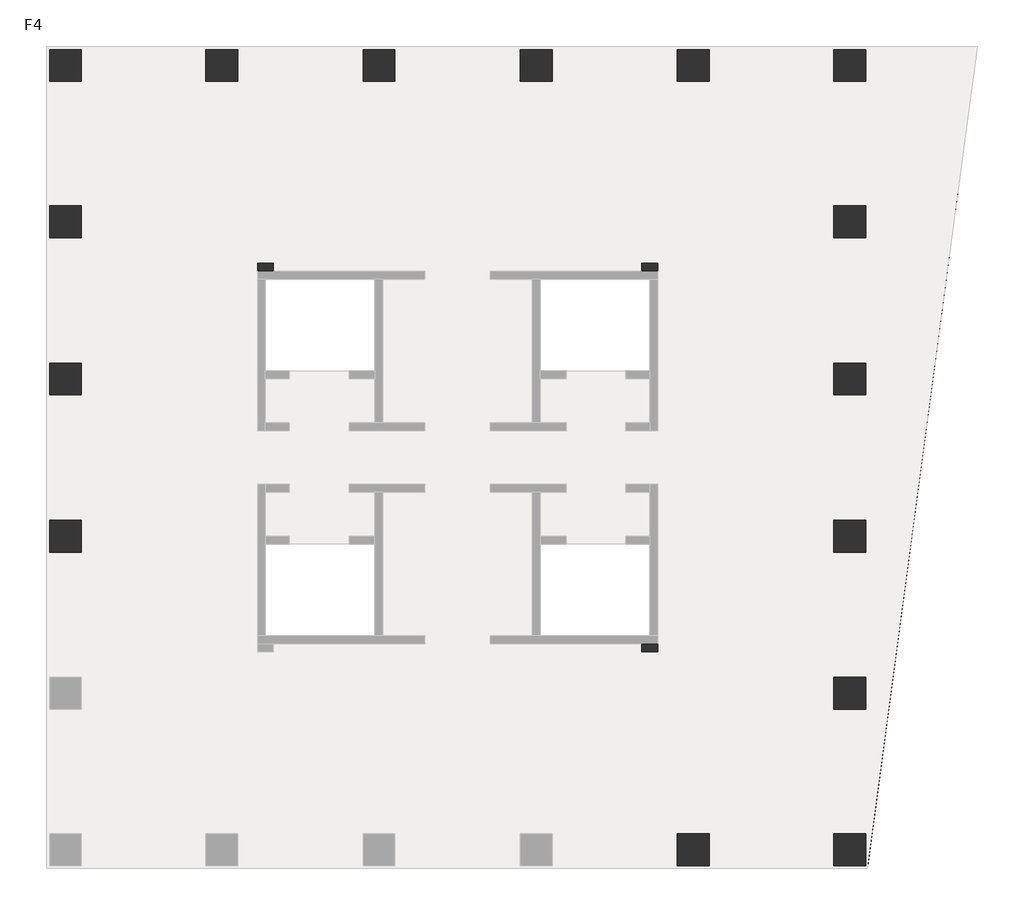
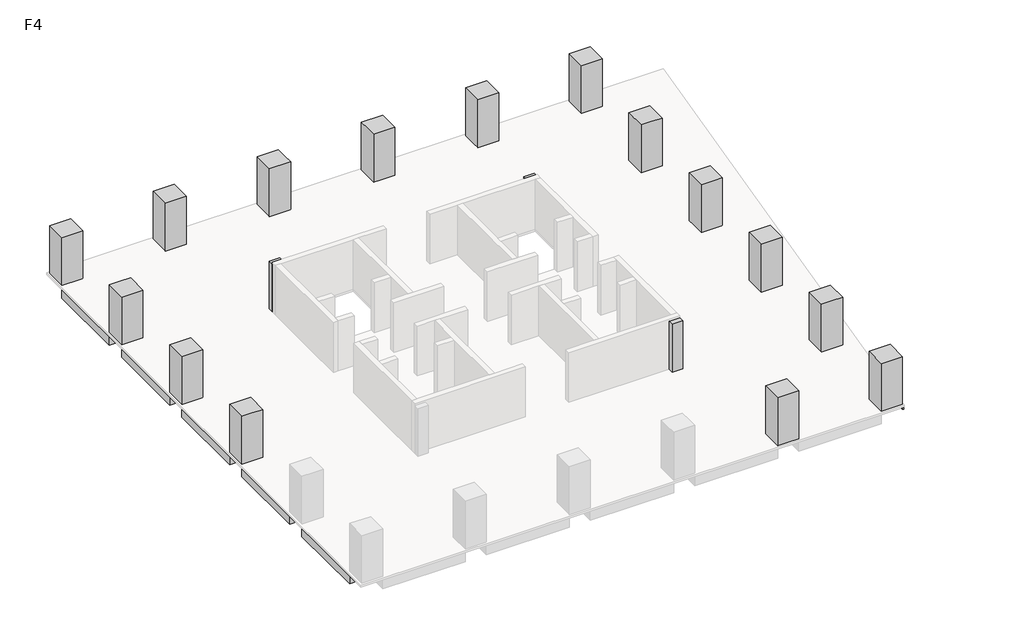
# One storey, part 2 of 2: 21 beams, 18 columns.
"""IFC4 building model written with IfcOpenShell, lengths in millimetres."""

from ifc_helpers import new_model, si_unit, frame, origin, place, context, project, spatial, polyline, outline, extrude, faceted_brep, element, save

model = new_model("IFC4")

# Units and contexts
model_context = context("Model", 3, world=origin())
ifc_project = project(units=[si_unit("LENGTHUNIT", "METRE", prefix="MILLI")], contexts=[model_context])

# Site, building, storey
site = spatial("IfcSite", under=ifc_project)
building = spatial("IfcBuilding", under=site)
storey = spatial("IfcBuildingStorey", under=building, Name="F4", Elevation=16000.0)

# Beams
placement = place(None, origin())
element("IfcBeam", 1, ObjectType="混凝土 - 矩形梁 : KL(5)-800x1000", at=placement, inside=storey, context=model_context, shape_type="SweptSolid", body=[
    extrude(outline(polyline([(25327.3257831, 27051.0498658), (25327.3257831, 26251.0498658), (19077.3257831, 26251.0498658), (19077.3257831, 27051.0498658), (25327.3257831, 27051.0498658)])), frame((0.0, 0.0, 15000.0), z_axis=(0.0, 0.0, 1.0), x_axis=(1.0, 0.0, 0.0)), (0.0, 0.0, 1.0), 840.0),
    extrude(outline(polyline([(-12472.6742169, 26251.0498658), (-12472.6742169, 27051.0498658), (-6222.6742169, 27051.0498658), (-6222.6742169, 26251.0498658), (-12472.6742169, 26251.0498658)])), frame((0.0, 0.0, 15000.0), z_axis=(0.0, 0.0, 1.0), x_axis=(1.0, 0.0, 0.0)), (0.0, 0.0, 1.0), 840.0),
    extrude(outline(polyline([(-4622.6742169, 26251.0498658), (-4622.6742169, 27051.0498658), (1677.3257831, 27051.0498658), (1677.3257831, 26251.0498658), (-4622.6742169, 26251.0498658)])), frame((0.0, 0.0, 15000.0), z_axis=(0.0, 0.0, 1.0), x_axis=(1.0, 0.0, 0.0)), (0.0, 0.0, 1.0), 840.0),
    extrude(outline(polyline([(3277.3257831, 26251.0498658), (3277.3257831, 27051.0498658), (9577.3257831, 27051.0498658), (9577.3257831, 26251.0498658), (3277.3257831, 26251.0498658)])), frame((0.0, 0.0, 15000.0), z_axis=(0.0, 0.0, 1.0), x_axis=(1.0, 0.0, 0.0)), (0.0, 0.0, 1.0), 840.0),
    extrude(outline(polyline([(11177.3257831, 26251.0498658), (11177.3257831, 27051.0498658), (17477.3257831, 27051.0498658), (17477.3257831, 26251.0498658), (11177.3257831, 26251.0498658)])), frame((0.0, 0.0, 15000.0), z_axis=(0.0, 0.0, 1.0), x_axis=(1.0, 0.0, 0.0)), (0.0, 0.0, 1.0), 840.0),
])
element("IfcBeam", 2, ObjectType="混凝土 - 矩形梁 : KL(5)-800x1000", at=placement, inside=storey, context=model_context, shape_type="Brep", body=[
    faceted_brep([(26927.3257831, 26251.0498658, 15000.0), (32422.0087099, 26251.0498658, 15000.0), (32422.0087099, 26251.0498658, 15840.0), (32018.4257091, 26251.0498658, 15840.0), (26927.3257831, 26251.0498658, 15840.0), (32422.0087099, 27051.0498658, 15000.0), (26927.3257831, 27051.0498658, 15000.0), (26927.3257831, 27051.0498658, 15840.0), (32422.0087099, 27051.0498658, 15840.0)], [[[0, 1, 2, 3, 4]], [[5, 1, 0, 6]], [[5, 6, 7, 8]], [[1, 5, 8, 2]], [[6, 0, 4, 7]], [[4, 3, 2, 8, 7]]]),
])
element("IfcBeam", 3, ObjectType="混凝土 - 矩形梁 : KL(5)-800x1000", at=placement, inside=storey, context=model_context, shape_type="Brep", body=[
    faceted_brep([(26127.3257831, -6098.9501342, 15000.0), (26127.3257831, -12348.9501342, 15000.0), (26127.3257831, -12348.9501342, 15840.0), (26127.3257831, -6098.9501342, 15840.0), (26927.3257831, -12348.9501342, 15000.0), (26927.3257831, -6098.9501342, 15000.0), (26927.3257831, -6098.9501342, 15840.0), (26927.3257831, -11700.7859463, 15840.0), (26927.3257831, -12348.9501342, 15840.0)], [[[0, 1, 2, 3]], [[4, 1, 0, 5]], [[4, 5, 6, 7, 8]], [[1, 4, 8, 2]], [[5, 0, 3, 6]], [[3, 2, 8, 7, 6]]]),
    faceted_brep([(26927.3257831, 25451.0498658, 15000.0), (26127.3257831, 25451.0498658, 15000.0), (26127.3257831, 25451.0498658, 15840.0), (26927.3257831, 25451.0498658, 15840.0), (26127.3257831, 19201.0498658, 15000.0), (26927.3257831, 19201.0498658, 15000.0), (26927.3257831, 19201.0498658, 15840.0), (26127.3257831, 19201.0498658, 15840.0)], [[[0, 1, 2, 3]], [[4, 5, 6, 7]], [[1, 4, 7, 2]], [[1, 0, 5, 4]], [[5, 0, 3, 6]], [[3, 2, 7, 6]]]),
    faceted_brep([(26927.3257831, 17601.0498658, 15000.0), (26127.3257831, 17601.0498658, 15000.0), (26127.3257831, 17601.0498658, 15840.0), (26927.3257831, 17601.0498658, 15840.0), (26127.3257831, 11301.0498658, 15000.0), (26927.3257831, 11301.0498658, 15000.0), (26927.3257831, 11301.0498658, 15840.0), (26127.3257831, 11301.0498658, 15840.0)], [[[0, 1, 2, 3]], [[4, 5, 6, 7]], [[1, 4, 7, 2]], [[1, 0, 5, 4]], [[5, 0, 3, 6]], [[3, 2, 7, 6]]]),
    faceted_brep([(26927.3257831, 9701.0498658, 15000.0), (26127.3257831, 9701.0498658, 15000.0), (26127.3257831, 9701.0498658, 15840.0), (26927.3257831, 9701.0498658, 15840.0), (26127.3257831, 3401.0498658, 15000.0), (26927.3257831, 3401.0498658, 15000.0), (26927.3257831, 3401.0498658, 15840.0), (26127.3257831, 3401.0498658, 15840.0)], [[[0, 1, 2, 3]], [[4, 5, 6, 7]], [[1, 4, 7, 2]], [[1, 0, 5, 4]], [[5, 0, 3, 6]], [[3, 2, 7, 6]]]),
    faceted_brep([(26927.3257831, 1801.0498658, 15000.0), (26127.3257831, 1801.0498658, 15000.0), (26127.3257831, 1801.0498658, 15840.0), (26927.3257831, 1801.0498658, 15840.0), (26127.3257831, -4498.9501342, 15000.0), (26927.3257831, -4498.9501342, 15000.0), (26927.3257831, -4498.9501342, 15840.0), (26127.3257831, -4498.9501342, 15840.0)], [[[0, 1, 2, 3]], [[4, 5, 6, 7]], [[1, 4, 7, 2]], [[1, 0, 5, 4]], [[5, 0, 3, 6]], [[3, 2, 7, 6]]]),
])
element("IfcBeam", 4, ObjectType="混凝土 - 矩形梁 : KL(5)-800x1000", at=placement, inside=storey, context=model_context, shape_type="SweptSolid", body=[
    extrude(outline(polyline([(-14072.6742169, 25451.0498658), (-13272.6742169, 25451.0498658), (-13272.6742169, 19201.0498658), (-14072.6742169, 19201.0498658), (-14072.6742169, 25451.0498658)])), frame((0.0, 0.0, 15000.0), z_axis=(0.0, 0.0, 1.0), x_axis=(1.0, 0.0, 0.0)), (0.0, 0.0, 1.0), 840.0),
    extrude(outline(polyline([(-13272.6742169, -12348.9501342), (-14072.6742169, -12348.9501342), (-14072.6742169, -6098.9501342), (-13272.6742169, -6098.9501342), (-13272.6742169, -12348.9501342)])), frame((0.0, 0.0, 15000.0), z_axis=(0.0, 0.0, 1.0), x_axis=(1.0, 0.0, 0.0)), (0.0, 0.0, 1.0), 840.0),
    extrude(outline(polyline([(-14072.6742169, 17601.0498658), (-13272.6742169, 17601.0498658), (-13272.6742169, 11301.0498658), (-14072.6742169, 11301.0498658), (-14072.6742169, 17601.0498658)])), frame((0.0, 0.0, 15000.0), z_axis=(0.0, 0.0, 1.0), x_axis=(1.0, 0.0, 0.0)), (0.0, 0.0, 1.0), 840.0),
    extrude(outline(polyline([(-14072.6742169, 9701.0498658), (-13272.6742169, 9701.0498658), (-13272.6742169, 3401.0498658), (-14072.6742169, 3401.0498658), (-14072.6742169, 9701.0498658)])), frame((0.0, 0.0, 15000.0), z_axis=(0.0, 0.0, 1.0), x_axis=(1.0, 0.0, 0.0)), (0.0, 0.0, 1.0), 840.0),
    extrude(outline(polyline([(-14072.6742169, 1801.0498658), (-13272.6742169, 1801.0498658), (-13272.6742169, -4498.9501342), (-14072.6742169, -4498.9501342), (-14072.6742169, 1801.0498658)])), frame((0.0, 0.0, 15000.0), z_axis=(0.0, 0.0, 1.0), x_axis=(1.0, 0.0, 0.0)), (0.0, 0.0, 1.0), 840.0),
])
element("IfcBeam", 5, ObjectType="混凝土 - 矩形梁 : L1-800x500", at=placement, inside=storey, context=model_context, shape_type="SweptSolid", body=[
    extrude(outline(polyline([(-12472.6742169, 2201.0498658), (-12472.6742169, 3001.0498658), (-3622.6742169, 3001.0498658), (-3622.6742169, 2201.0498658), (-12472.6742169, 2201.0498658)])), frame((0.0, 0.0, 15500.0), z_axis=(0.0, 0.0, 1.0), x_axis=(1.0, 0.0, 0.0)), (0.0, 0.0, 1.0), 340.0),
])
element("IfcBeam", 6, ObjectType="混凝土 - 矩形梁 : L1-800x500", at=placement, inside=storey, context=model_context, shape_type="SweptSolid", body=[
    extrude(outline(polyline([(-12472.6742169, 10101.0498658), (-12472.6742169, 10901.0498658), (-3622.6742169, 10901.0498658), (-3622.6742169, 10101.0498658), (-12472.6742169, 10101.0498658)])), frame((0.0, 0.0, 15500.0), z_axis=(0.0, 0.0, 1.0), x_axis=(1.0, 0.0, 0.0)), (0.0, 0.0, 1.0), 340.0),
])
element("IfcBeam", 7, ObjectType="混凝土 - 矩形梁 : L1-800x500", at=placement, inside=storey, context=model_context, shape_type="Brep", body=[
    faceted_brep([(-12472.6742169, 17789.85471, 15500.0), (-3622.6742169, 15588.3621727, 15500.0), (-3622.6742169, 15588.3621727, 15840.0), (-12472.6742169, 17789.85471, 15840.0), (-3173.6696907, 16301.0498658, 15500.0), (-3622.6742169, 16301.0498658, 15500.0), (-3622.6742169, 15901.0498658, 15500.0), (-12472.6742169, 18614.2350714, 15500.0), (-3746.9473979, 16443.6562607, 15500.0), (-12472.6742169, 18614.2350714, 15840.0), (-3746.9473979, 16443.6562607, 15840.0), (-3173.6696907, 16301.0498658, 15840.0), (-3622.6742169, 16301.0498658, 15840.0)], [[[0, 1, 2, 3]], [[4, 5, 6, 1, 0, 7, 8]], [[4, 8, 7, 9, 10, 11]], [[6, 5, 12, 2, 1]], [[5, 4, 11, 12]], [[7, 0, 3, 9]], [[3, 2, 12, 11, 10, 9]]]),
])
element("IfcBeam", 8, ObjectType="混凝土 - 矩形梁 : L1-800x500", at=placement, inside=storey, context=model_context, shape_type="SweptSolid", body=[
    extrude(outline(polyline([(-3173.6696907, 16301.0498658), (-3746.9473979, 16443.6562607), (-5661.5624638, 25451.0498658), (-4843.6893517, 25451.0498658), (-2898.7618154, 16301.0498658), (-3173.6696907, 16301.0498658)])), frame((0.0, 0.0, 15500.0), z_axis=(0.0, 0.0, 1.0), x_axis=(1.0, 0.0, 0.0)), (0.0, 0.0, 1.0), 340.0),
])
element("IfcBeam", 9, ObjectType="混凝土 - 矩形梁 : L1-800x500", at=placement, inside=storey, context=model_context, shape_type="SweptSolid", body=[
    extrude(outline(polyline([(2077.3257831, 25451.0498658), (2877.3257831, 25451.0498658), (2877.3257831, 15901.0498658), (2077.3257831, 15901.0498658), (2077.3257831, 25451.0498658)])), frame((0.0, 0.0, 15500.0), z_axis=(0.0, 0.0, 1.0), x_axis=(1.0, 0.0, 0.0)), (0.0, 0.0, 1.0), 340.0),
])
element("IfcBeam", 10, ObjectType="混凝土 - 矩形梁 : L1-800x500", at=placement, inside=storey, context=model_context, shape_type="SweptSolid", body=[
    extrude(outline(polyline([(9977.3257831, 25451.0498658), (10777.3257831, 25451.0498658), (10777.3257831, 15901.0498658), (9977.3257831, 15901.0498658), (9977.3257831, 25451.0498658)])), frame((0.0, 0.0, 15500.0), z_axis=(0.0, 0.0, 1.0), x_axis=(1.0, 0.0, 0.0)), (0.0, 0.0, 1.0), 340.0),
])
element("IfcBeam", 11, ObjectType="混凝土 - 矩形梁 : L1-800x500", at=placement, inside=storey, context=model_context, shape_type="Brep", body=[
    faceted_brep([(25327.3257831, -4687.7549784, 15500.0), (16477.3257831, -2486.2624411, 15500.0), (16477.3257831, -2486.2624411, 15840.0), (25327.3257831, -4687.7549784, 15840.0), (16028.3212569, -3198.9501342, 15500.0), (16477.3257831, -3198.9501342, 15500.0), (16477.3257831, -2798.9501342, 15500.0), (25327.3257831, -5512.1353397, 15500.0), (16601.5989641, -3341.556529, 15500.0), (25327.3257831, -5512.1353397, 15840.0), (16601.5989641, -3341.556529, 15840.0), (16028.3212569, -3198.9501342, 15840.0), (16477.3257831, -3198.9501342, 15840.0)], [[[0, 1, 2, 3]], [[4, 5, 6, 1, 0, 7, 8]], [[4, 8, 7, 9, 10, 11]], [[6, 5, 12, 2, 1]], [[5, 4, 11, 12]], [[7, 0, 3, 9]], [[3, 2, 12, 11, 10, 9]]]),
])
element("IfcBeam", 12, ObjectType="混凝土 - 矩形梁 : L1-800x500", at=placement, inside=storey, context=model_context, shape_type="SweptSolid", body=[
    extrude(outline(polyline([(16028.3212569, -3198.9501342), (16601.5989641, -3341.556529), (18516.21403, -12348.9501342), (17698.3409179, -12348.9501342), (15753.4133817, -3198.9501342), (16028.3212569, -3198.9501342)])), frame((0.0, 0.0, 15500.0), z_axis=(0.0, 0.0, 1.0), x_axis=(1.0, 0.0, 0.0)), (0.0, 0.0, 1.0), 340.0),
])
element("IfcBeam", 13, ObjectType="混凝土 - 矩形梁 : L1-800x500", at=placement, inside=storey, context=model_context, shape_type="SweptSolid", body=[
    extrude(outline(polyline([(25327.3257831, 3001.0498658), (25327.3257831, 2201.0498658), (16477.3257831, 2201.0498658), (16477.3257831, 3001.0498658), (25327.3257831, 3001.0498658)])), frame((0.0, 0.0, 15500.0), z_axis=(0.0, 0.0, 1.0), x_axis=(1.0, 0.0, 0.0)), (0.0, 0.0, 1.0), 340.0),
])
element("IfcBeam", 14, ObjectType="混凝土 - 矩形梁 : L1-800x500", at=placement, inside=storey, context=model_context, shape_type="SweptSolid", body=[
    extrude(outline(polyline([(25327.3257831, 10901.0498658), (25327.3257831, 10101.0498658), (16477.3257831, 10101.0498658), (16477.3257831, 10901.0498658), (25327.3257831, 10901.0498658)])), frame((0.0, 0.0, 15500.0), z_axis=(0.0, 0.0, 1.0), x_axis=(1.0, 0.0, 0.0)), (0.0, 0.0, 1.0), 340.0),
])
element("IfcBeam", 15, ObjectType="混凝土 - 矩形梁 : L1-800x500", at=placement, inside=storey, context=model_context, shape_type="Brep", body=[
    faceted_brep([(25327.3257831, 18610.6867312, 15500.0), (16590.8993897, 16393.3196262, 15500.0), (16227.3565337, 16301.0498658, 15500.0), (16227.3565337, 16301.0498658, 15840.0), (16590.8993897, 16393.3196262, 15840.0), (25327.3257831, 18610.6867312, 15840.0), (16477.3257831, 16301.0498658, 15500.0), (25327.3257831, 17785.3216299, 15500.0), (16477.3257831, 15539.1287365, 15500.0), (16477.3257831, 15901.0498658, 15500.0), (25327.3257831, 17785.3216299, 15840.0), (16477.3257831, 15539.1287365, 15840.0), (16477.3257831, 16301.0498658, 15840.0)], [[[0, 1, 2, 3, 4, 5]], [[6, 2, 1, 0, 7, 8, 9]], [[8, 7, 10, 11]], [[9, 8, 11, 12, 6]], [[2, 6, 12, 3]], [[7, 0, 5, 10]], [[5, 4, 3, 12, 11, 10]]]),
])
element("IfcBeam", 16, ObjectType="混凝土 - 矩形梁 : L1-800x500", at=placement, inside=storey, context=model_context, shape_type="SweptSolid", body=[
    extrude(outline(polyline([(16590.8993897, 16393.3196262), (16227.3565337, 16301.0498658), (15753.4133817, 16301.0498658), (17698.3409179, 25451.0498658), (18516.21403, 25451.0498658), (16590.8993897, 16393.3196262)])), frame((0.0, 0.0, 15500.0), z_axis=(0.0, 0.0, 1.0), x_axis=(1.0, 0.0, 0.0)), (0.0, 0.0, 1.0), 340.0),
])
element("IfcBeam", 17, ObjectType="混凝土 - 矩形梁 : L2-400x400", at=placement, inside=storey, context=model_context, shape_type="Brep", body=[
    faceted_brep([(32422.0087099, 26251.0498658, 15600.0), (27029.3257831, -13948.9501342, 15600.0), (26927.3257831, -13935.2672073, 15600.0), (26927.3257831, -11700.7859463, 15600.0), (27759.2793677, -5498.9501342, 15600.0), (27812.9379042, -5098.9501342, 15600.0), (28819.0354652, 2401.0498658, 15600.0), (28872.6940018, 2801.0498658, 15600.0), (29878.7915628, 10301.0498658, 15600.0), (29932.4500994, 10701.0498658, 15600.0), (30938.5476603, 18201.0498658, 15600.0), (30992.2061969, 18601.0498658, 15600.0), (32018.4257091, 26251.0498658, 15600.0), (32422.0087099, 26251.0498658, 15840.0), (27029.3257831, -13948.9501342, 15840.0), (32018.4257091, 26251.0498658, 15840.0), (26927.3257831, -13935.2672073, 15840.0), (26927.3257831, -12348.9501342, 15840.0), (26927.3257831, -11700.7859463, 15840.0), (27759.2793677, -5498.9501342, 15840.0), (27812.9379042, -5098.9501342, 15840.0), (28819.0354652, 2401.0498658, 15840.0), (28872.6940018, 2801.0498658, 15840.0), (29878.7915628, 10301.0498658, 15840.0), (29932.4500994, 10701.0498658, 15840.0), (30938.5476603, 18201.0498658, 15840.0), (30992.2061969, 18601.0498658, 15840.0)], [[[0, 1, 2, 3, 4, 5, 6, 7, 8, 9, 10, 11, 12]], [[1, 0, 13, 14]], [[0, 12, 15, 13]], [[3, 2, 16, 17, 18]], [[12, 11, 10, 9, 8, 7, 6, 5, 4, 3, 18, 19, 20, 21, 22, 23, 24, 25, 26, 15]], [[2, 1, 14, 16]], [[14, 13, 15, 26, 25, 24, 23, 22, 21, 20, 19, 18, 17, 16]]]),
])
element("IfcBeam", 18, ObjectType="混凝土 - 矩形梁 : L2-400x400", at=placement, inside=storey, context=model_context, shape_type="SweptSolid", body=[
    extrude(outline(polyline([(30938.5476603, 18201.0498658), (26927.3257831, 18201.0498658), (26927.3257831, 18601.0498658), (30992.2061969, 18601.0498658), (30938.5476603, 18201.0498658)])), frame((0.0, 0.0, 15600.0), z_axis=(0.0, 0.0, 1.0), x_axis=(1.0, 0.0, 0.0)), (0.0, 0.0, 1.0), 240.0),
])
element("IfcBeam", 19, ObjectType="混凝土 - 矩形梁 : L2-400x400", at=placement, inside=storey, context=model_context, shape_type="SweptSolid", body=[
    extrude(outline(polyline([(29878.7915628, 10301.0498658), (26927.3257831, 10301.0498658), (26927.3257831, 10701.0498658), (29932.4500994, 10701.0498658), (29878.7915628, 10301.0498658)])), frame((0.0, 0.0, 15600.0), z_axis=(0.0, 0.0, 1.0), x_axis=(1.0, 0.0, 0.0)), (0.0, 0.0, 1.0), 240.0),
])
element("IfcBeam", 20, ObjectType="混凝土 - 矩形梁 : L2-400x400", at=placement, inside=storey, context=model_context, shape_type="SweptSolid", body=[
    extrude(outline(polyline([(28819.0354652, 2401.0498658), (26927.3257831, 2401.0498658), (26927.3257831, 2801.0498658), (28872.6940018, 2801.0498658), (28819.0354652, 2401.0498658)])), frame((0.0, 0.0, 15600.0), z_axis=(0.0, 0.0, 1.0), x_axis=(1.0, 0.0, 0.0)), (0.0, 0.0, 1.0), 240.0),
])
element("IfcBeam", 21, ObjectType="混凝土 - 矩形梁 : L2-400x400", at=placement, inside=storey, context=model_context, shape_type="SweptSolid", body=[
    extrude(outline(polyline([(27759.2793677, -5498.9501342), (26927.3257831, -5498.9501342), (26927.3257831, -5098.9501342), (27812.9379042, -5098.9501342), (27759.2793677, -5498.9501342)])), frame((0.0, 0.0, 15600.0), z_axis=(0.0, 0.0, 1.0), x_axis=(1.0, 0.0, 0.0)), (0.0, 0.0, 1.0), 240.0),
])

# Columns
element("IfcColumn", 22, ObjectType="混凝土 - 矩形 - 柱 : Z1-1600x1600", at=placement, inside=storey, context=model_context, shape_type="SweptSolid", body=[
    extrude(outline(polyline([(-12472.6742169, 27051.0498658), (-12472.6742169, 25451.0498658), (-14072.6742169, 25451.0498658), (-14072.6742169, 27051.0498658), (-12472.6742169, 27051.0498658)])), frame((0.0, 0.0, 16000.0), z_axis=(0.0, 0.0, 1.0), x_axis=(1.0, 0.0, 0.0)), (0.0, 0.0, 1.0), 3840.0),
])
element("IfcColumn", 23, ObjectType="混凝土 - 矩形 - 柱 : Z1-1600x1600", at=placement, inside=storey, context=model_context, shape_type="Brep", body=[
    faceted_brep([(-4622.6742169, 27051.0498658, 16000.0), (-4622.6742169, 25451.0498658, 16000.0), (-6222.6742169, 25451.0498658, 16000.0), (-6222.6742169, 27051.0498658, 16000.0), (-4622.6742169, 27051.0498658, 19000.0), (-4622.6742169, 27051.0498658, 19840.0), (-4622.6742169, 26251.0498658, 19840.0), (-4622.6742169, 25451.0498658, 19840.0), (-6222.6742169, 25451.0498658, 19840.0), (-6222.6742169, 26251.0498658, 19840.0), (-6222.6742169, 27051.0498658, 19840.0), (-6222.6742169, 27051.0498658, 19000.0)], [[[0, 1, 2, 3]], [[1, 0, 4, 5, 6, 7]], [[2, 1, 7, 8]], [[3, 2, 8, 9, 10, 11]], [[0, 3, 11, 10, 5, 4]], [[7, 6, 5, 10, 9, 8]]]),
])
element("IfcColumn", 24, ObjectType="混凝土 - 矩形 - 柱 : Z1-1600x1600", at=placement, inside=storey, context=model_context, shape_type="Brep", body=[
    faceted_brep([(-12472.6742169, 19201.0498658, 16000.0), (-12472.6742169, 17601.0498658, 16000.0), (-14072.6742169, 17601.0498658, 16000.0), (-14072.6742169, 19201.0498658, 16000.0), (-12472.6742169, 19201.0498658, 19840.0), (-12472.6742169, 17601.0498658, 19840.0), (-13272.6742169, 17601.0498658, 19840.0), (-14072.6742169, 17601.0498658, 19840.0), (-14072.6742169, 17601.0498658, 19000.0), (-14072.6742169, 19201.0498658, 19840.0), (-14072.6742169, 19201.0498658, 19000.0), (-13272.6742169, 19201.0498658, 19840.0)], [[[0, 1, 2, 3]], [[1, 0, 4, 5]], [[2, 1, 5, 6, 7, 8]], [[3, 2, 8, 7, 9, 10]], [[0, 3, 10, 9, 11, 4]], [[5, 4, 11, 9, 7, 6]]]),
])
element("IfcColumn", 25, ObjectType="混凝土 - 矩形 - 柱 : Z1-1600x1600", at=placement, inside=storey, context=model_context, shape_type="Brep", body=[
    faceted_brep([(-12472.6742169, 11301.0498658, 16000.0), (-12472.6742169, 9701.0498658, 16000.0), (-14072.6742169, 9701.0498658, 16000.0), (-14072.6742169, 11301.0498658, 16000.0), (-12472.6742169, 11301.0498658, 19840.0), (-12472.6742169, 9701.0498658, 19840.0), (-13272.6742169, 9701.0498658, 19840.0), (-14072.6742169, 9701.0498658, 19840.0), (-14072.6742169, 9701.0498658, 19000.0), (-14072.6742169, 11301.0498658, 19840.0), (-14072.6742169, 11301.0498658, 19000.0), (-13272.6742169, 11301.0498658, 19840.0)], [[[0, 1, 2, 3]], [[1, 0, 4, 5]], [[2, 1, 5, 6, 7, 8]], [[3, 2, 8, 7, 9, 10]], [[0, 3, 10, 9, 11, 4]], [[5, 4, 11, 9, 7, 6]]]),
])
element("IfcColumn", 26, ObjectType="混凝土 - 矩形 - 柱 : Z1-1600x1600", at=placement, inside=storey, context=model_context, shape_type="Brep", body=[
    faceted_brep([(-12472.6742169, 3401.0498658, 16000.0), (-12472.6742169, 1801.0498658, 16000.0), (-14072.6742169, 1801.0498658, 16000.0), (-14072.6742169, 3401.0498658, 16000.0), (-12472.6742169, 3401.0498658, 19840.0), (-12472.6742169, 1801.0498658, 19840.0), (-13272.6742169, 1801.0498658, 19840.0), (-14072.6742169, 1801.0498658, 19840.0), (-14072.6742169, 1801.0498658, 19000.0), (-14072.6742169, 3401.0498658, 19840.0), (-14072.6742169, 3401.0498658, 19000.0), (-13272.6742169, 3401.0498658, 19840.0)], [[[0, 1, 2, 3]], [[1, 0, 4, 5]], [[2, 1, 5, 6, 7, 8]], [[3, 2, 8, 7, 9, 10]], [[0, 3, 10, 9, 11, 4]], [[5, 4, 11, 9, 7, 6]]]),
])
element("IfcColumn", 27, ObjectType="混凝土 - 矩形 - 柱 : Z1-1600x1600", at=placement, inside=storey, context=model_context, shape_type="SweptSolid", body=[
    extrude(outline(polyline([(25327.3257831, 27051.0498658), (26927.3257831, 27051.0498658), (26927.3257831, 25451.0498658), (25327.3257831, 25451.0498658), (25327.3257831, 27051.0498658)])), frame((0.0, 0.0, 16000.0), z_axis=(0.0, 0.0, 1.0), x_axis=(1.0, 0.0, 0.0)), (0.0, 0.0, 1.0), 3840.0),
])
element("IfcColumn", 28, ObjectType="混凝土 - 矩形 - 柱 : Z1-1600x1600", at=placement, inside=storey, context=model_context, shape_type="Brep", body=[
    faceted_brep([(25327.3257831, 19201.0498658, 16000.0), (26927.3257831, 19201.0498658, 16000.0), (26927.3257831, 17601.0498658, 16000.0), (25327.3257831, 17601.0498658, 16000.0), (25327.3257831, 17601.0498658, 19840.0), (25327.3257831, 19201.0498658, 19840.0), (26927.3257831, 17601.0498658, 19000.0), (26927.3257831, 17601.0498658, 19840.0), (26127.3257831, 17601.0498658, 19840.0), (26927.3257831, 19201.0498658, 19000.0), (26927.3257831, 19201.0498658, 19840.0), (26127.3257831, 19201.0498658, 19840.0)], [[[0, 1, 2, 3]], [[0, 3, 4, 5]], [[3, 2, 6, 7, 8, 4]], [[2, 1, 9, 10, 7, 6]], [[1, 0, 5, 11, 10, 9]], [[5, 4, 8, 7, 10, 11]]]),
])
element("IfcColumn", 29, ObjectType="混凝土 - 矩形 - 柱 : Z1-1600x1600", at=placement, inside=storey, context=model_context, shape_type="Brep", body=[
    faceted_brep([(25327.3257831, 11301.0498658, 16000.0), (26927.3257831, 11301.0498658, 16000.0), (26927.3257831, 9701.0498658, 16000.0), (25327.3257831, 9701.0498658, 16000.0), (25327.3257831, 9701.0498658, 19840.0), (25327.3257831, 11301.0498658, 19840.0), (26927.3257831, 9701.0498658, 19000.0), (26927.3257831, 9701.0498658, 19840.0), (26127.3257831, 9701.0498658, 19840.0), (26927.3257831, 11301.0498658, 19000.0), (26927.3257831, 11301.0498658, 19840.0), (26127.3257831, 11301.0498658, 19840.0)], [[[0, 1, 2, 3]], [[0, 3, 4, 5]], [[3, 2, 6, 7, 8, 4]], [[2, 1, 9, 10, 7, 6]], [[1, 0, 5, 11, 10, 9]], [[5, 4, 8, 7, 10, 11]]]),
])
element("IfcColumn", 30, ObjectType="混凝土 - 矩形 - 柱 : Z1-1600x1600", at=placement, inside=storey, context=model_context, shape_type="Brep", body=[
    faceted_brep([(25327.3257831, 3401.0498658, 16000.0), (26927.3257831, 3401.0498658, 16000.0), (26927.3257831, 1801.0498658, 16000.0), (25327.3257831, 1801.0498658, 16000.0), (25327.3257831, 1801.0498658, 19840.0), (25327.3257831, 3401.0498658, 19840.0), (26927.3257831, 1801.0498658, 19000.0), (26927.3257831, 1801.0498658, 19840.0), (26127.3257831, 1801.0498658, 19840.0), (26927.3257831, 3401.0498658, 19000.0), (26927.3257831, 3401.0498658, 19840.0), (26127.3257831, 3401.0498658, 19840.0)], [[[0, 1, 2, 3]], [[0, 3, 4, 5]], [[3, 2, 6, 7, 8, 4]], [[2, 1, 9, 10, 7, 6]], [[1, 0, 5, 11, 10, 9]], [[5, 4, 8, 7, 10, 11]]]),
])
element("IfcColumn", 31, ObjectType="混凝土 - 矩形 - 柱 : Z1-1600x1600", at=placement, inside=storey, context=model_context, shape_type="Brep", body=[
    faceted_brep([(25327.3257831, -4498.9501342, 16000.0), (26927.3257831, -4498.9501342, 16000.0), (26927.3257831, -6098.9501342, 16000.0), (25327.3257831, -6098.9501342, 16000.0), (25327.3257831, -6098.9501342, 19840.0), (25327.3257831, -4498.9501342, 19840.0), (26927.3257831, -6098.9501342, 19000.0), (26927.3257831, -6098.9501342, 19840.0), (26127.3257831, -6098.9501342, 19840.0), (26927.3257831, -4498.9501342, 19000.0), (26927.3257831, -4498.9501342, 19840.0), (26127.3257831, -4498.9501342, 19840.0)], [[[0, 1, 2, 3]], [[0, 3, 4, 5]], [[3, 2, 6, 7, 8, 4]], [[2, 1, 9, 10, 7, 6]], [[1, 0, 5, 11, 10, 9]], [[5, 4, 8, 7, 10, 11]]]),
])
element("IfcColumn", 32, ObjectType="混凝土 - 矩形 - 柱 : Z1-1600x1600", at=placement, inside=storey, context=model_context, shape_type="SweptSolid", body=[
    extrude(outline(polyline([(25327.3257831, -12348.9501342), (26927.3257831, -12348.9501342), (26927.3257831, -13948.9501342), (25327.3257831, -13948.9501342), (25327.3257831, -12348.9501342)])), frame((0.0, 0.0, 16000.0), z_axis=(0.0, 0.0, 1.0), x_axis=(1.0, 0.0, 0.0)), (0.0, 0.0, 1.0), 3840.0),
])
element("IfcColumn", 33, ObjectType="混凝土 - 矩形 - 柱 : Z1-1600x1600", at=placement, inside=storey, context=model_context, shape_type="Brep", body=[
    faceted_brep([(3277.3257831, 27051.0498658, 16000.0), (3277.3257831, 25451.0498658, 16000.0), (1677.3257831, 25451.0498658, 16000.0), (1677.3257831, 27051.0498658, 16000.0), (3277.3257831, 27051.0498658, 19000.0), (3277.3257831, 27051.0498658, 19840.0), (3277.3257831, 26251.0498658, 19840.0), (3277.3257831, 25451.0498658, 19840.0), (1677.3257831, 25451.0498658, 19840.0), (1677.3257831, 26251.0498658, 19840.0), (1677.3257831, 27051.0498658, 19840.0), (1677.3257831, 27051.0498658, 19000.0)], [[[0, 1, 2, 3]], [[1, 0, 4, 5, 6, 7]], [[2, 1, 7, 8]], [[3, 2, 8, 9, 10, 11]], [[0, 3, 11, 10, 5, 4]], [[7, 6, 5, 10, 9, 8]]]),
])
element("IfcColumn", 34, ObjectType="混凝土 - 矩形 - 柱 : Z1-1600x1600", at=placement, inside=storey, context=model_context, shape_type="Brep", body=[
    faceted_brep([(11177.3257831, 27051.0498658, 16000.0), (11177.3257831, 25451.0498658, 16000.0), (9577.3257831, 25451.0498658, 16000.0), (9577.3257831, 27051.0498658, 16000.0), (11177.3257831, 27051.0498658, 19000.0), (11177.3257831, 27051.0498658, 19840.0), (11177.3257831, 26251.0498658, 19840.0), (11177.3257831, 25451.0498658, 19840.0), (9577.3257831, 25451.0498658, 19840.0), (9577.3257831, 26251.0498658, 19840.0), (9577.3257831, 27051.0498658, 19840.0), (9577.3257831, 27051.0498658, 19000.0)], [[[0, 1, 2, 3]], [[1, 0, 4, 5, 6, 7]], [[2, 1, 7, 8]], [[3, 2, 8, 9, 10, 11]], [[0, 3, 11, 10, 5, 4]], [[7, 6, 5, 10, 9, 8]]]),
])
element("IfcColumn", 35, ObjectType="混凝土 - 矩形 - 柱 : Z1-1600x1600", at=placement, inside=storey, context=model_context, shape_type="Brep", body=[
    faceted_brep([(19077.3257831, 27051.0498658, 16000.0), (19077.3257831, 25451.0498658, 16000.0), (17477.3257831, 25451.0498658, 16000.0), (17477.3257831, 27051.0498658, 16000.0), (19077.3257831, 27051.0498658, 19000.0), (19077.3257831, 27051.0498658, 19840.0), (19077.3257831, 26251.0498658, 19840.0), (19077.3257831, 25451.0498658, 19840.0), (17477.3257831, 25451.0498658, 19840.0), (17477.3257831, 26251.0498658, 19840.0), (17477.3257831, 27051.0498658, 19840.0), (17477.3257831, 27051.0498658, 19000.0)], [[[0, 1, 2, 3]], [[1, 0, 4, 5, 6, 7]], [[2, 1, 7, 8]], [[3, 2, 8, 9, 10, 11]], [[0, 3, 11, 10, 5, 4]], [[7, 6, 5, 10, 9, 8]]]),
])
element("IfcColumn", 36, ObjectType="混凝土 - 矩形 - 柱 : Z1-1600x1600", at=placement, inside=storey, context=model_context, shape_type="Brep", body=[
    faceted_brep([(19077.3257831, -12348.9501342, 16000.0), (19077.3257831, -13948.9501342, 16000.0), (17477.3257831, -13948.9501342, 16000.0), (17477.3257831, -12348.9501342, 16000.0), (19077.3257831, -12348.9501342, 19840.0), (19077.3257831, -13148.9501342, 19840.0), (19077.3257831, -13948.9501342, 19840.0), (19077.3257831, -13948.9501342, 19000.0), (17477.3257831, -13948.9501342, 19840.0), (17477.3257831, -13948.9501342, 19000.0), (17477.3257831, -13148.9501342, 19840.0), (17477.3257831, -12348.9501342, 19840.0)], [[[0, 1, 2, 3]], [[1, 0, 4, 5, 6, 7]], [[2, 1, 7, 6, 8, 9]], [[3, 2, 9, 8, 10, 11]], [[0, 3, 11, 4]], [[6, 5, 4, 11, 10, 8]]]),
])
element("IfcColumn", 37, ObjectType="混凝土 - 矩形 - 柱 : Z2-800x800", at=placement, inside=storey, context=model_context, shape_type="SweptSolid", body=[
    extrude(outline(polyline([(-3622.6742169, 16301.0498658), (-2822.6742169, 16301.0498658), (-2822.6742169, 15901.0498658), (-3622.6742169, 15901.0498658), (-3622.6742169, 16301.0498658)])), frame((0.0, 0.0, 16000.0), z_axis=(0.0, 0.0, 1.0), x_axis=(1.0, 0.0, 0.0)), (0.0, 0.0, 1.0), 3840.0),
])
element("IfcColumn", 38, ObjectType="混凝土 - 矩形 - 柱 : Z2-800x800", at=placement, inside=storey, context=model_context, shape_type="SweptSolid", body=[
    extrude(outline(polyline([(16477.3257831, -3198.9501342), (15677.3257831, -3198.9501342), (15677.3257831, -2798.9501342), (16477.3257831, -2798.9501342), (16477.3257831, -3198.9501342)])), frame((0.0, 0.0, 16000.0), z_axis=(0.0, 0.0, 1.0), x_axis=(1.0, 0.0, 0.0)), (0.0, 0.0, 1.0), 3840.0),
])
element("IfcColumn", 39, ObjectType="混凝土 - 矩形 - 柱 : Z2-800x800", at=placement, inside=storey, context=model_context, shape_type="SweptSolid", body=[
    extrude(outline(polyline([(15677.3257831, 16301.0498658), (16477.3257831, 16301.0498658), (16477.3257831, 15901.0498658), (15677.3257831, 15901.0498658), (15677.3257831, 16301.0498658)])), frame((0.0, 0.0, 16000.0), z_axis=(0.0, 0.0, 1.0), x_axis=(1.0, 0.0, 0.0)), (0.0, 0.0, 1.0), 3840.0),
])

save(model, "model.ifc")
